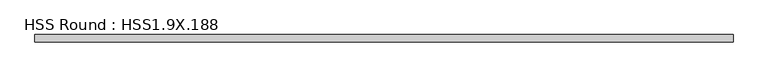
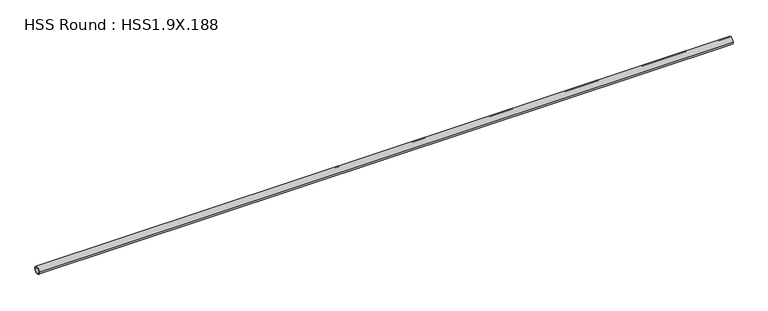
"""IFC4 building model written with IfcOpenShell, lengths in millimetres: member geometry, HSS Round : HSS1.9X.188."""

from ifc_helpers import new_model, si_unit, point, frame, origin, origin_2d, place, context, project, spatial, circle_curve, trimmed, segment, composite_curve, outline, extrude, source, transform, mapped, element, save


def hss_round_hss1_9x_188_115ef0f0(model_context):
    return source(origin(), model_context, "Body", "SweptSolid", [
        extrude(outline(composite_curve([segment(trimmed(circle_curve(origin_2d(), 24.13), [point((-24.13, 0.0))], [point((24.13, 0.0))], False, "CARTESIAN"), True, "CONTINUOUS"), segment(trimmed(circle_curve(origin_2d(), 24.13), [point((24.13, 0.0))], [point((-24.13, 0.0))], False, "CARTESIAN"), True, "CONTINUOUS")], self_intersect=False), holes=[composite_curve([segment(trimmed(circle_curve(origin_2d(), 19.3548), [point((19.3548, 0.0))], [point((-19.3548, 0.0))], True, "CARTESIAN"), True, "CONTINUOUS"), segment(trimmed(circle_curve(origin_2d(), 19.3548), [point((-19.3548, 0.0))], [point((19.3548, 0.0))], True, "CARTESIAN"), True, "CONTINUOUS")], self_intersect=False)]), frame((-2329.9190753, 0.0, 0.0), z_axis=(1.0, 0.0, 0.0), x_axis=(0.0, 1.0, 0.0)), (0.0, 0.0, 1.0), 4675.3294601),
    ])


if __name__ == "__main__":
    model = new_model("IFC4")
    model_context = context("Model", 3, world=origin())
    ifc_project = project(units=[si_unit("LENGTHUNIT", "METRE", prefix="MILLI")], contexts=[model_context])
    site = spatial("IfcSite", under=ifc_project)
    building = spatial("IfcBuilding", under=site)
    placement = place(None, origin())
    hss_round_hss1_9x_188_shape = hss_round_hss1_9x_188_115ef0f0(model_context)
    element("IfcMember", 1, ObjectType="HSS Round : HSS1.9X.188", at=placement, inside=building, context=model_context, shape_type="MappedRepresentation", body=[
        mapped(hss_round_hss1_9x_188_shape, transform((0.0, 0.0, 0.0), x_axis=(1.0, 0.0, 0.0), y_axis=(0.0, 1.0, 0.0), z_axis=(0.0, 0.0, 1.0))),
    ])
    save(model, "model.ifc")
